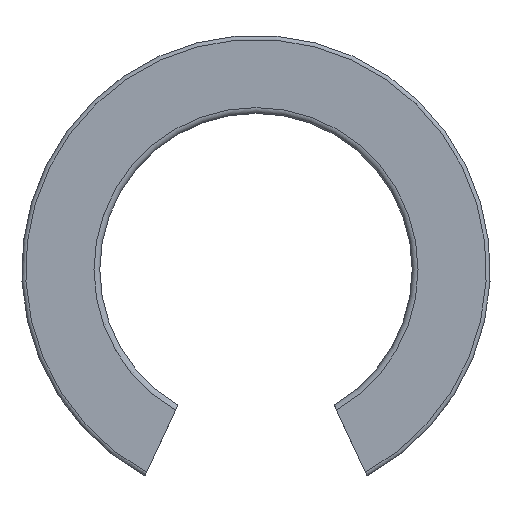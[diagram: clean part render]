
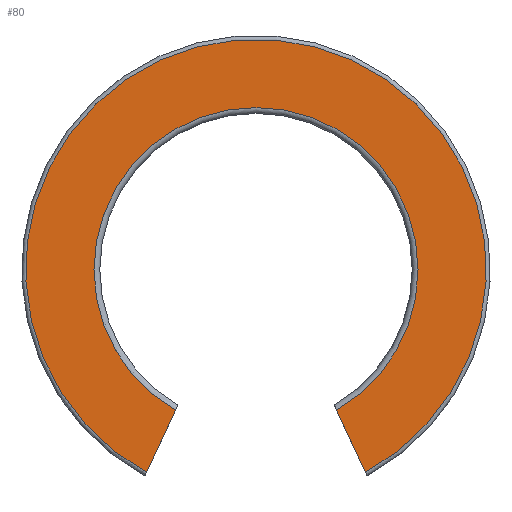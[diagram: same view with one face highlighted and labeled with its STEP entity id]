
A CAD part, left-side view. The second image highlights one B-rep face of the part: STEP entity #80.
In plain terms, the highlighted planar face has unit normal (-1, 0, 0).
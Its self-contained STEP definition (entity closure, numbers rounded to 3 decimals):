
#80=ADVANCED_FACE('',(#112),#113,.F.);
#112=FACE_OUTER_BOUND('',#164,.T.);
#113=PLANE('',#165);
#164=EDGE_LOOP('',(#261,#262,#263,#264));
#165=AXIS2_PLACEMENT_3D('',#265,#266,#267);
#261=ORIENTED_EDGE('',*,*,#428,.F.);
#262=ORIENTED_EDGE('',*,*,#454,.F.);
#263=ORIENTED_EDGE('',*,*,#462,.F.);
#264=ORIENTED_EDGE('',*,*,#463,.T.);
#265=CARTESIAN_POINT('',(0.0,22.119,0.0));
#266=DIRECTION('',(1.0,0.0,0.0));
#267=DIRECTION('',(0.0,0.0,-1.0));
#428=EDGE_CURVE('',#500,#501,#502,.T.);
#454=EDGE_CURVE('',#550,#500,#552,.T.);
#462=EDGE_CURVE('',#564,#550,#565,.T.);
#463=EDGE_CURVE('',#564,#501,#566,.T.);
#500=VERTEX_POINT('',#620);
#501=VERTEX_POINT('',#621);
#502=LINE('',#622,#623);
#550=VERTEX_POINT('',#710);
#552=CIRCLE('',#717,15.558);
#564=VERTEX_POINT('',#740);
#565=LINE('',#741,#742);
#566=CIRCLE('',#743,22.119);
#620=CARTESIAN_POINT('',(0.0,7.737,-13.498));
#621=CARTESIAN_POINT('',(0.0,10.516,-19.459));
#622=CARTESIAN_POINT('',(0.0,5.135,-7.92));
#623=VECTOR('',#820,1.0);
#710=CARTESIAN_POINT('',(0.0,-7.737,-13.498));
#717=AXIS2_PLACEMENT_3D('',#843,#844,#845);
#740=CARTESIAN_POINT('',(0.0,-10.516,-19.459));
#741=CARTESIAN_POINT('',(0.0,2.766,9.025));
#742=VECTOR('',#859,1.0);
#743=AXIS2_PLACEMENT_3D('',#860,#861,#862);
#820=DIRECTION('',(0.0,0.423,-0.906));
#843=CARTESIAN_POINT('',(0.0,0.0,0.0));
#844=DIRECTION('',(-1.0,0.0,0.0));
#845=DIRECTION('',(0.0,0.0,1.0));
#859=DIRECTION('',(0.0,0.423,0.906));
#860=CARTESIAN_POINT('',(0.0,0.0,0.0));
#861=DIRECTION('',(-1.0,0.0,0.0));
#862=DIRECTION('',(0.0,0.0,1.0));
